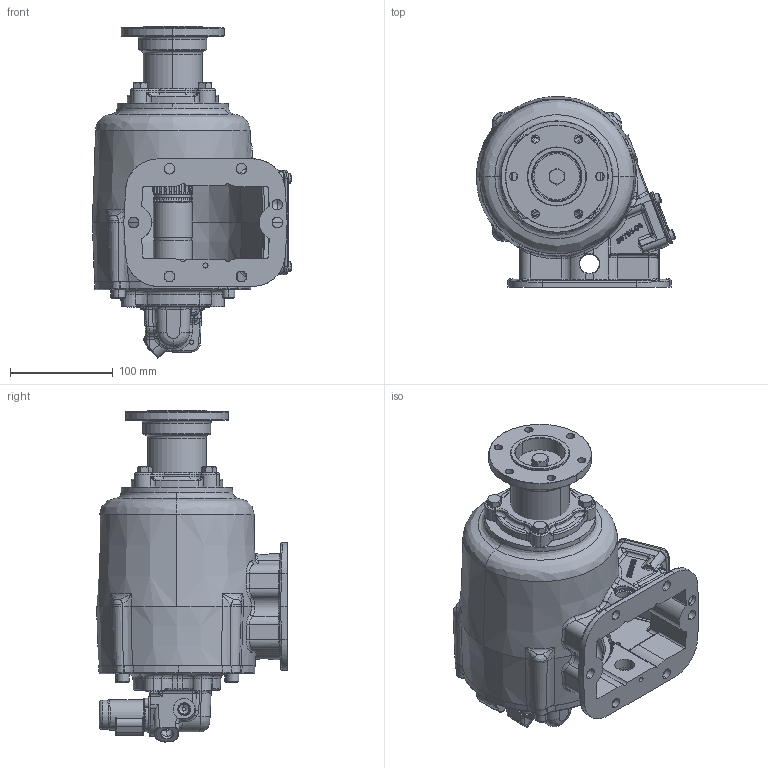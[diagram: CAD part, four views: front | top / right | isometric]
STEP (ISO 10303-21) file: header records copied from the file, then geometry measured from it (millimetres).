
FILE_DESCRIPTION (( 'STEP AP203' ), '1' );
FILE_NAME ('CS6B-XXXXX-S32X.STEP', '2023-05-24T14:48:42', ( '' ), ( '' ), 'SwSTEP 2.0', 'SolidWorks 2021', '' );
FILE_SCHEMA (( 'CONFIG_CONTROL_DESIGN' ));
Length unit declared in the file: inch
Products named in the file (19): 15T41683; 25T21684; 19T41118; 15T41597; 12T34003; 19T33233; 06T37372_dummy; 11T36124-1; 35T40860-2; CS6B-XXXXX-S32X; 21T20092; 16T41119; 01T37072-01; 19T35237; 19T36174; 24T36894; 19T38266; 19T40859; 14T37378
Assembly tree (32 placements, depth 2):
  CS6B-XXXXX-S32X
    01T37072-01
    16T41119
    12T34003
    25T21684  x2
    19T41118  x4
    11T36124-1
    24T36894
    19T33233  x4
    19T36174  x4
    15T41597
    35T40860-2
    19T35237  x4
    19T40859  x2
    14T37378
    19T38266
    15T41683
    06T37372_dummy
    21T20092
Bounding box: 193.76 x 185.25 x 322.79 mm (x, y, z)
Volume: 1556817.8 mm3; surface area: 449141.3 mm2
Topology: 29 solids, 37 shells, 3068 faces, 7701 edges, 4741 vertices
Faces by surface type: bspline 863, plane 816, cylinder 751, cone 413, torus 208, sphere 17
Entity records: 173222 total; most frequent: CARTESIAN_POINT 111591, ORIENTED_EDGE 13804, DIRECTION 10046, EDGE_CURVE 6903, VERTEX_POINT 4320, AXIS2_PLACEMENT_3D 3904, EDGE_LOOP 2970, FACE_OUTER_BOUND 2741
